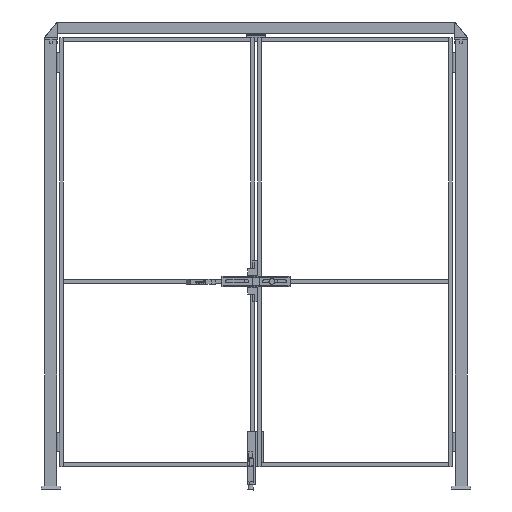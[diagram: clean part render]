
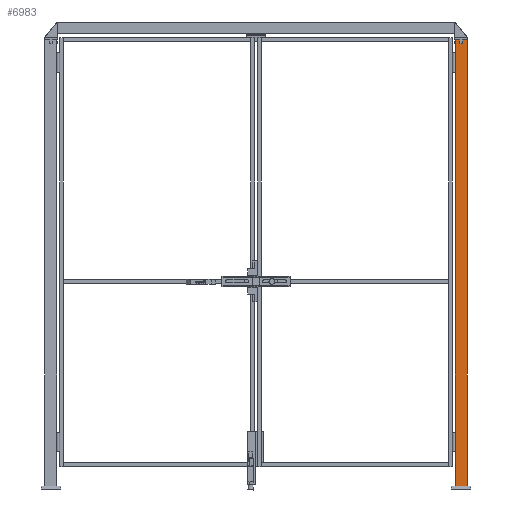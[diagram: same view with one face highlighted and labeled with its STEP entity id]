
A CAD part, front view. The second image highlights one B-rep face of the part: STEP entity #6983.
In plain terms, the highlighted planar face has unit normal (0, -1, 0).
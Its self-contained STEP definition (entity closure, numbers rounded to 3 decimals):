
#890=FACE_OUTER_BOUND('',#1242,.T.);
#1242=EDGE_LOOP('',(#5281,#5282,#5283,#5284));
#1758=LINE('',#10216,#2623);
#1760=LINE('',#10222,#2625);
#1763=LINE('',#10227,#2628);
#1764=LINE('',#10228,#2629);
#2623=VECTOR('',#8220,1.);
#2625=VECTOR('',#8224,1.);
#2628=VECTOR('',#8229,1.);
#2629=VECTOR('',#8230,1.);
#3419=VERTEX_POINT('',#10209);
#3422=VERTEX_POINT('',#10214);
#3424=VERTEX_POINT('',#10219);
#3425=VERTEX_POINT('',#10221);
#4143=EDGE_CURVE('',#3422,#3419,#1758,.T.);
#4145=EDGE_CURVE('',#3424,#3425,#1760,.T.);
#4148=EDGE_CURVE('',#3422,#3425,#1763,.T.);
#4149=EDGE_CURVE('',#3419,#3424,#1764,.T.);
#5281=ORIENTED_EDGE('',*,*,#4148,.T.);
#5282=ORIENTED_EDGE('',*,*,#4145,.F.);
#5283=ORIENTED_EDGE('',*,*,#4149,.F.);
#5284=ORIENTED_EDGE('',*,*,#4143,.F.);
#6678=PLANE('',#7387);
#6983=ADVANCED_FACE('',(#890),#6678,.F.);
#7387=AXIS2_PLACEMENT_3D('',#10226,#8227,#8228);
#8220=DIRECTION('',(1.,0.,0.));
#8224=DIRECTION('',(-1.,0.,0.));
#8227=DIRECTION('center_axis',(0.,1.,0.));
#8228=DIRECTION('ref_axis',(0.,0.,1.));
#8229=DIRECTION('',(0.,0.,-1.));
#8230=DIRECTION('',(0.,0.,-1.));
#10209=CARTESIAN_POINT('',(30.,-30.,2320.));
#10214=CARTESIAN_POINT('',(-30.,-30.,2320.));
#10216=CARTESIAN_POINT('',(0.,-30.,2320.));
#10219=CARTESIAN_POINT('',(30.,-30.,20.));
#10221=CARTESIAN_POINT('',(-30.,-30.,20.));
#10222=CARTESIAN_POINT('',(0.,-30.,20.));
#10226=CARTESIAN_POINT('Origin',(0.,-30.,
1170.));
#10227=CARTESIAN_POINT('',(-30.,-30.,1170.));
#10228=CARTESIAN_POINT('',(30.,-30.,1170.));
